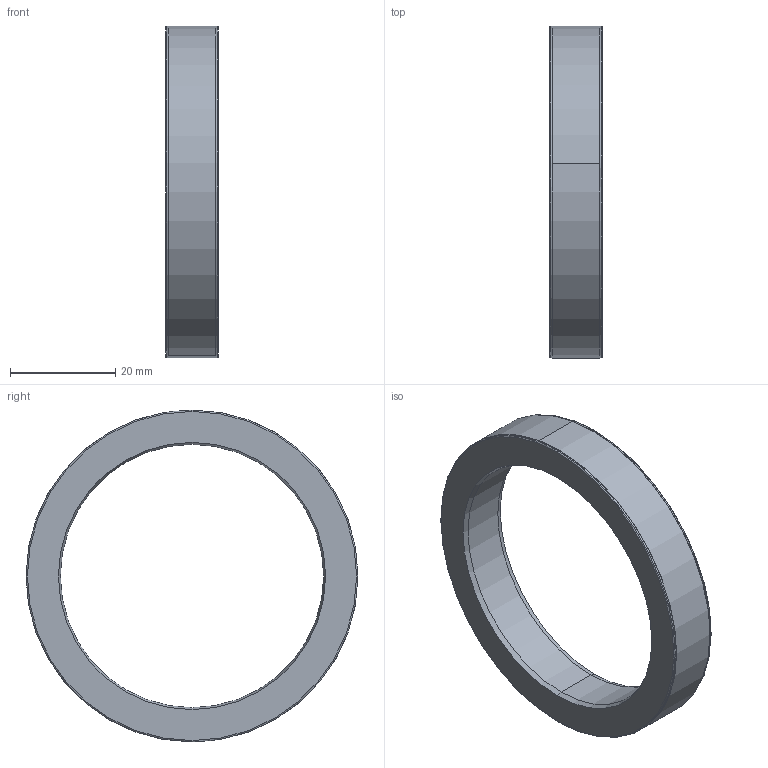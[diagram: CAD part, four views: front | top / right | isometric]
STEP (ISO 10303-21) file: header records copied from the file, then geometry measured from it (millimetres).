
FILE_DESCRIPTION (( 'STEP AP214' ), '1' );
FILE_NAME ('MR063U050.STEP', '2021-09-21T13:37:01', ( '' ), ( '' ), 'SwSTEP 2.0', 'SolidWorks 2020', '' );
FILE_SCHEMA (( 'AUTOMOTIVE_DESIGN' ));
Length unit declared in the file: millimetre
Products named in the file (1): MR063U050
Bounding box: 10 x 63.05 x 63.05 mm (x, y, z)
Volume: 11511 mm3; surface area: 5744.5 mm2
Topology: 1 solids, 1 shells, 426 faces, 1133 edges, 754 vertices
Faces by surface type: plane 251, bspline 147, cylinder 20, torus 4, cone 4
Entity records: 24639 total; most frequent: CARTESIAN_POINT 10301, ORIENTED_EDGE 2266, DIRECTION 1455, EDGE_CURVE 1133, LINE 783, VECTOR 783, VERTEX_POINT 754, EDGE_LOOP 473
